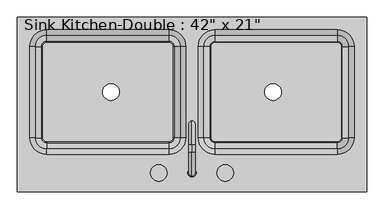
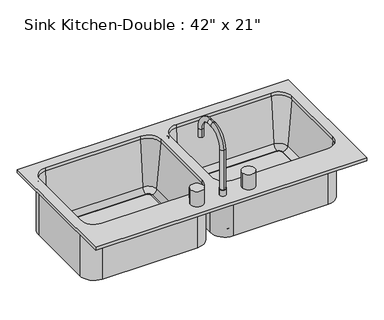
"""IFC4 building model written with IfcOpenShell, lengths in millimetres: flow terminal geometry."""

from ifc_helpers import new_model, si_unit, point, frame, frame_2d, origin, place, context, project, spatial, polyline, circle_curve, ellipse_curve, trimmed, segment, composite_curve, outline, extrude, source, transform, mapped, element, save
from ifc_brep_helpers import plane_surface, cylinder_surface, revolved_surface, advanced_brep


def flow_terminal_c7f2ea3e(model_context):
    return source(origin(), model_context, "Body", "SolidModel", [
        advanced_brep(
        [(2.9892406, -211.8954011, 927.1), (28.3892406, -211.8954011, 927.1), (15.6892406, -221.4204011, 1114.425), (15.6892406, -221.4204011, 952.5), (15.6892406, -202.3704011, 952.5), (15.6892406, -202.3704011, 1114.425), (15.6892406, -148.3954011, 1168.4), (15.6892406, -148.3954011, 1187.45), (15.6892406, -126.1704011, 1168.4), (15.6892406, -126.1704011, 1187.45), (15.6892406, -72.1954011, 1114.425), (15.6892406, -53.1454011, 1114.425), (15.6892406, -53.1454011, 1079.5), (15.6892406, -72.1954011, 1079.5), (2.9892406, -211.8954011, 952.5), (28.3892406, -211.8954011, 952.5)],
        [
            (0, 1, circle_curve(frame((15.6892406, -211.8954011, 927.1), z_axis=(0.0, 0.0, -1.0), x_axis=(1.0, 0.0, 0.0)), 12.7)),
            (1, 0, circle_curve(frame((15.6892406, -211.8954011, 927.1), z_axis=(0.0, 0.0, -1.0), x_axis=(1.0, 0.0, 0.0)), 12.7)),
            (2, 3),
            (3, 4, circle_curve(frame((15.6892406, -211.8954011, 952.5), z_axis=(0.0, 0.0, 1.0), x_axis=(0.0, 1.0, 0.0)), 9.525)),
            (4, 5),
            (5, 2, circle_curve(frame((15.6892406, -211.8954011, 1114.425), z_axis=(0.0, 0.0, -1.0), x_axis=(0.0, 1.0, 0.0)), 9.525)),
            (4, 3, circle_curve(frame((15.6892406, -211.8954011, 952.5), z_axis=(0.0, 0.0, 1.0), x_axis=(0.0, 1.0, 0.0)), 9.525)),
            (2, 5, circle_curve(frame((15.6892406, -211.8954011, 1114.425), z_axis=(0.0, 0.0, -1.0), x_axis=(0.0, 1.0, 0.0)), 9.525)),
            (5, 6, circle_curve(frame((15.6892406, -148.3954011, 1114.425), z_axis=(-1.0, 0.0, 0.0), x_axis=(0.0, -1.0, 0.0)), 53.975)),
            (6, 7, circle_curve(frame((15.6892406, -148.3954011, 1177.925), z_axis=(0.0, -1.0, 0.0), x_axis=(0.0, 0.0, -1.0)), 9.525)),
            (7, 2, circle_curve(frame((15.6892406, -148.3954011, 1114.425), z_axis=(1.0, 0.0, 0.0), x_axis=(0.0, -1.0, 0.0)), 73.025)),
            (7, 6, circle_curve(frame((15.6892406, -148.3954011, 1177.925), z_axis=(0.0, -1.0, 0.0), x_axis=(0.0, 0.0, -1.0)), 9.525)),
            (6, 8),
            (8, 9, circle_curve(frame((15.6892406, -126.1704011, 1177.925), z_axis=(0.0, -1.0, 0.0), x_axis=(0.0, 0.0, -1.0)), 9.525)),
            (9, 7),
            (9, 8, circle_curve(frame((15.6892406, -126.1704011, 1177.925), z_axis=(0.0, -1.0, 0.0), x_axis=(0.0, 0.0, -1.0)), 9.525)),
            (8, 10, circle_curve(frame((15.6892406, -126.1704011, 1114.425), z_axis=(-1.0, 0.0, 0.0), x_axis=(0.0, 0.0, 1.0)), 53.975)),
            (10, 11, circle_curve(frame((15.6892406, -62.6704011, 1114.425), z_axis=(0.0, 0.0, 1.0), x_axis=(0.0, -1.0, 0.0)), 9.525)),
            (11, 9, circle_curve(frame((15.6892406, -126.1704011, 1114.425), z_axis=(1.0, 0.0, 0.0), x_axis=(0.0, 0.0, 1.0)), 73.025)),
            (11, 10, circle_curve(frame((15.6892406, -62.6704011, 1114.425), z_axis=(0.0, 0.0, 1.0), x_axis=(0.0, -1.0, 0.0)), 9.525)),
            (12, 13, circle_curve(frame((15.6892406, -62.6704011, 1079.5), z_axis=(0.0, 0.0, -1.0), x_axis=(0.0, -1.0, 0.0)), 9.525)),
            (13, 12, circle_curve(frame((15.6892406, -62.6704011, 1079.5), z_axis=(0.0, 0.0, -1.0), x_axis=(0.0, -1.0, 0.0)), 9.525)),
            (10, 13),
            (12, 11),
            (14, 15, circle_curve(frame((15.6892406, -211.8954011, 952.5), z_axis=(0.0, 0.0, 1.0), x_axis=(1.0, 0.0, 0.0)), 12.7)),
            (15, 14, circle_curve(frame((15.6892406, -211.8954011, 952.5), z_axis=(0.0, 0.0, 1.0), x_axis=(1.0, 0.0, 0.0)), 12.7)),
            (15, 1),
            (0, 14),
        ],
        [
            plane_surface(frame((15.6892406, -202.3704011, 927.1), z_axis=(0.0, 0.0, -1.0), x_axis=(1.0, 0.0, 0.0))),
            cylinder_surface(frame((15.6892406, -211.8954011, 927.1), z_axis=(0.0, 0.0, -1.0), x_axis=(0.0, 1.0, 0.0)), 9.525),
            revolved_surface(trimmed(ellipse_curve(frame((15.6892406, -211.8954011, 1114.425), z_axis=(0.0, 0.0, 1.0), x_axis=(0.0, 1.0, 0.0)), 9.525, 9.525), [point((15.6892406, -221.4204011, 1114.425))], [point((15.6892406, -202.3704011, 1114.425))], True, "CARTESIAN"), (15.6892406, -148.3954011, 1114.425), (1.0, 0.0, 0.0)),
            revolved_surface(trimmed(ellipse_curve(frame((15.6892406, -211.8954011, 1114.425), z_axis=(0.0, 0.0, 1.0), x_axis=(0.0, 1.0, 0.0)), 9.525, 9.525), [point((15.6892406, -202.3704011, 1114.425))], [point((15.6892406, -221.4204011, 1114.425))], True, "CARTESIAN"), (15.6892406, -148.3954011, 1114.425), (1.0, 0.0, 0.0)),
            cylinder_surface(frame((15.6892406, -148.3954011, 1177.925), z_axis=(0.0, -1.0, 0.0), x_axis=(0.0, 0.0, -1.0)), 9.525),
            revolved_surface(trimmed(ellipse_curve(frame((15.6892406, -126.1704011, 1177.925), z_axis=(0.0, 1.0, 0.0), x_axis=(0.0, 0.0, -1.0)), 9.525, 9.525), [point((15.6892406, -126.1704011, 1187.45))], [point((15.6892406, -126.1704011, 1168.4))], True, "CARTESIAN"), (15.6892406, -126.1704011, 1114.425), (1.0, 0.0, 0.0)),
            revolved_surface(trimmed(ellipse_curve(frame((15.6892406, -126.1704011, 1177.925), z_axis=(0.0, 1.0, 0.0), x_axis=(0.0, 0.0, -1.0)), 9.525, 9.525), [point((15.6892406, -126.1704011, 1168.4))], [point((15.6892406, -126.1704011, 1187.45))], True, "CARTESIAN"), (15.6892406, -126.1704011, 1114.425), (1.0, 0.0, 0.0)),
            plane_surface(frame((15.6892406, -53.1454011, 1079.5), z_axis=(0.0, 0.0, -1.0), x_axis=(-1.0, 0.0, 0.0))),
            cylinder_surface(frame((15.6892406, -62.6704011, 1114.425), z_axis=(0.0, 0.0, 1.0), x_axis=(0.0, -1.0, 0.0)), 9.525),
            plane_surface(frame((28.3892406, -211.8954011, 952.5), z_axis=(0.0, 0.0, 1.0), x_axis=(0.0, -1.0, 0.0))),
            cylinder_surface(frame((15.6892406, -211.8954011, 927.1), z_axis=(0.0, 0.0, 1.0), x_axis=(1.0, 0.0, 0.0)), 12.7),
        ],
        [
            (0, [[1, 2]]),
            (1, [[3, 4, 5, 6]]),
            (1, [[-5, 7, -3, 8]]),
            (2, [[9, 10, 11, -6]]),
            (3, [[-11, 12, -9, -8]]),
            (4, [[13, 14, 15, -10]]),
            (4, [[-15, 16, -13, -12]]),
            (5, [[17, 18, 19, -14]]),
            (6, [[-19, 20, -17, -16]]),
            (7, [[21, 22]]),
            (8, [[23, -21, 24, -18]]),
            (8, [[-24, -22, -23, -20]]),
            (9, [[25, 26], [-7, -4]]),
            (10, [[27, -1, 28, -26]]),
            (10, [[-28, -2, -27, -25]]),
        ],
    ),
        advanced_brep(
        [(549.0892406, -269.0454011, 927.1), (549.0892406, 264.3545989, 927.1), (-517.7107594, 264.3545989, 927.1), (-517.7107594, -269.0454011, 927.1), (-54.1607594, -154.7454011, 927.1), (-428.8107594, -154.7454011, 927.1), (-479.6107594, -103.9454011, 927.1), (-479.6107594, 175.4545989, 927.1), (-428.8107594, 226.2545989, 927.1), (-54.1607594, 226.2545989, 927.1), (-3.3607594, 175.4545989, 927.1), (-3.3607594, -103.9454011, 927.1), (85.5392406, 226.2545989, 927.1), (460.1892406, 226.2545989, 927.1), (510.9892406, 175.4545989, 927.1), (510.9892406, -103.9454011, 927.1), (460.1892406, -154.7454011, 927.1), (85.5392406, -154.7454011, 927.1), (34.7392406, -103.9454011, 927.1), (34.7392406, 175.4545989, 927.1), (549.0892406, -269.0454011, 914.4), (-517.7107594, -269.0454011, 914.4), (-517.7107594, 264.3545989, 914.4), (549.0892406, 264.3545989, 914.4), (85.5392406, -161.0954011, 914.4), (460.1892406, -161.0954011, 914.4), (517.3392406, -103.9454011, 914.4), (517.3392406, 175.4545989, 914.4), (460.1892406, 232.6045989, 914.4), (85.5392406, 232.6045989, 914.4), (28.3892406, 175.4545989, 914.4), (28.3892406, -103.9454011, 914.4), (2.9892406, -103.9454011, 914.4), (2.9892406, 175.4545989, 914.4), (-54.1607594, 232.6045989, 914.4), (-428.8107594, 232.6045989, 914.4), (-485.9607594, 175.4545989, 914.4), (-485.9607594, -103.9454011, 914.4), (-428.8107594, -161.0954011, 914.4), (-54.1607594, -161.0954011, 914.4), (-3.3607594, -103.9454011, 914.4), (-54.1607594, -154.7454011, 914.4), (-3.3607594, 175.4545989, 914.4), (-54.1607594, 226.2545989, 914.4), (-428.8107594, 226.2545989, 914.4), (-479.6107594, 175.4545989, 914.4), (-479.6107594, -103.9454011, 914.4), (-428.8107594, -154.7454011, 914.4), (34.7392406, 175.4545989, 914.4), (85.5392406, 226.2545989, 914.4), (34.7392406, -103.9454011, 914.4), (85.5392406, -154.7454011, 914.4), (460.1892406, -154.7454011, 914.4), (510.9892406, -103.9454011, 914.4), (510.9892406, 175.4545989, 914.4), (460.1892406, 226.2545989, 914.4), (51.2733134, -103.9454011, 725.4146831), (85.5392406, -138.2113283, 725.4146831), (85.5392406, -119.2338193, 708.025), (70.2508224, -103.9454011, 708.025), (85.5392406, -116.6454011, 708.025), (72.8392406, -103.9454011, 708.025), (85.5392406, -116.6454011, 698.5), (72.8392406, -103.9454011, 698.5), (85.5392406, -161.0954011, 698.5), (28.3892406, -103.9454011, 698.5), (51.2733134, 175.4545989, 725.4146831), (70.2508224, 175.4545989, 708.025), (72.8392406, 175.4545989, 708.025), (72.8392406, 175.4545989, 698.5), (28.3892406, 175.4545989, 698.5), (85.5392406, 209.7205261, 725.4146831), (85.5392406, 190.7430171, 708.025), (85.5392406, 188.1545989, 708.025), (85.5392406, 188.1545989, 698.5), (85.5392406, 232.6045989, 698.5), (460.1892406, 209.7205261, 725.4146831), (460.1892406, 190.7430171, 708.025), (460.1892406, 188.1545989, 708.025), (460.1892406, 188.1545989, 698.5), (460.1892406, 232.6045989, 698.5), (494.4551678, 175.4545989, 725.4146831), (475.4776588, 175.4545989, 708.025), (472.8892406, 175.4545989, 708.025), (472.8892406, 175.4545989, 698.5), (517.3392406, 175.4545989, 698.5), (494.4551678, -103.9454011, 725.4146831), (475.4776588, -103.9454011, 708.025), (472.8892406, -103.9454011, 708.025), (472.8892406, -103.9454011, 698.5), (517.3392406, -103.9454011, 698.5), (460.1892406, -138.2113283, 725.4146831), (460.1892406, -119.2338193, 708.025), (460.1892406, -116.6454011, 708.025), (460.1892406, -116.6454011, 698.5), (460.1892406, -161.0954011, 698.5), (2.9892406, -103.9454011, 698.5), (-54.1607594, -161.0954011, 698.5), (-54.1607594, -116.6454011, 698.5), (-41.4607594, -103.9454011, 698.5), (-54.1607594, -116.6454011, 708.025), (-41.4607594, -103.9454011, 708.025), (-54.1607594, -119.2338193, 708.025), (-38.8723412, -103.9454011, 708.025), (-54.1607594, -138.2113283, 725.4146831), (-19.8948322, -103.9454011, 725.4146831), (2.9892406, 175.4545989, 698.5), (-41.4607594, 175.4545989, 698.5), (-41.4607594, 175.4545989, 708.025), (-38.8723412, 175.4545989, 708.025), (-19.8948322, 175.4545989, 725.4146831), (-54.1607594, 232.6045989, 698.5), (-54.1607594, 188.1545989, 698.5), (-54.1607594, 188.1545989, 708.025), (-54.1607594, 190.7430171, 708.025), (-54.1607594, 209.7205261, 725.4146831), (-428.8107594, 232.6045989, 698.5), (-428.8107594, 188.1545989, 698.5), (-428.8107594, 188.1545989, 708.025), (-428.8107594, 190.7430171, 708.025), (-428.8107594, 209.7205261, 725.4146831), (-485.9607594, 175.4545989, 698.5), (-441.5107594, 175.4545989, 698.5), (-441.5107594, 175.4545989, 708.025), (-444.0991776, 175.4545989, 708.025), (-463.0766866, 175.4545989, 725.4146831), (-485.9607594, -103.9454011, 698.5), (-441.5107594, -103.9454011, 698.5), (-441.5107594, -103.9454011, 708.025), (-444.0991776, -103.9454011, 708.025), (-463.0766866, -103.9454011, 725.4146831), (-428.8107594, -161.0954011, 698.5), (-428.8107594, -116.6454011, 698.5), (-428.8107594, -116.6454011, 708.025), (-428.8107594, -119.2338193, 708.025), (-428.8107594, -138.2113283, 725.4146831)],
        [
            (0, 1),
            (1, 2),
            (2, 3),
            (3, 0),
            (4, 5),
            (5, 6, circle_curve(frame((-428.8107594, -103.9454011, 927.1), z_axis=(0.0, 0.0, -1.0), x_axis=(1.0, 0.0, 0.0)), 50.8)),
            (6, 7),
            (7, 8, circle_curve(frame((-428.8107594, 175.4545989, 927.1), z_axis=(0.0, 0.0, -1.0), x_axis=(1.0, 0.0, 0.0)), 50.8)),
            (8, 9),
            (9, 10, circle_curve(frame((-54.1607594, 175.4545989, 927.1), z_axis=(0.0, 0.0, -1.0), x_axis=(1.0, 0.0, 0.0)), 50.8)),
            (10, 11),
            (11, 4, circle_curve(frame((-54.1607594, -103.9454011, 927.1), z_axis=(0.0, 0.0, -1.0), x_axis=(1.0, 0.0, 0.0)), 50.8)),
            (12, 13),
            (13, 14, circle_curve(frame((460.1892406, 175.4545989, 927.1), z_axis=(0.0, 0.0, -1.0), x_axis=(1.0, 0.0, 0.0)), 50.8)),
            (14, 15),
            (15, 16, circle_curve(frame((460.1892406, -103.9454011, 927.1), z_axis=(0.0, 0.0, -1.0), x_axis=(1.0, 0.0, 0.0)), 50.8)),
            (16, 17),
            (17, 18, circle_curve(frame((85.5392406, -103.9454011, 927.1), z_axis=(0.0, 0.0, -1.0), x_axis=(1.0, 0.0, 0.0)), 50.8)),
            (18, 19),
            (19, 12, circle_curve(frame((85.5392406, 175.4545989, 927.1), z_axis=(0.0, 0.0, -1.0), x_axis=(1.0, 0.0, 0.0)), 50.8)),
            (20, 21),
            (21, 22),
            (22, 23),
            (23, 20),
            (24, 25),
            (25, 26, circle_curve(frame((460.1892406, -103.9454011, 914.4), z_axis=(0.0, 0.0, 1.0), x_axis=(1.0, 0.0, 0.0)), 57.15)),
            (26, 27),
            (27, 28, circle_curve(frame((460.1892406, 175.4545989, 914.4), z_axis=(0.0, 0.0, 1.0), x_axis=(0.0, 1.0, 0.0)), 57.15)),
            (28, 29),
            (29, 30, circle_curve(frame((85.5392406, 175.4545989, 914.4), z_axis=(0.0, 0.0, 1.0), x_axis=(-1.0, 0.0, 0.0)), 57.15)),
            (30, 31),
            (31, 24, circle_curve(frame((85.5392406, -103.9454011, 914.4), z_axis=(0.0, 0.0, 1.0), x_axis=(0.0, -1.0, 0.0)), 57.15)),
            (32, 33),
            (33, 34, circle_curve(frame((-54.1607594, 175.4545989, 914.4), z_axis=(0.0, 0.0, 1.0), x_axis=(1.0, 0.0, 0.0)), 57.15)),
            (34, 35),
            (35, 36, circle_curve(frame((-428.8107594, 175.4545989, 914.4), z_axis=(0.0, 0.0, 1.0), x_axis=(0.0, 1.0, 0.0)), 57.15)),
            (36, 37),
            (37, 38, circle_curve(frame((-428.8107594, -103.9454011, 914.4), z_axis=(0.0, 0.0, 1.0), x_axis=(-1.0, 0.0, 0.0)), 57.15)),
            (38, 39),
            (39, 32, circle_curve(frame((-54.1607594, -103.9454011, 914.4), z_axis=(0.0, 0.0, 1.0), x_axis=(0.0, -1.0, 0.0)), 57.15)),
            (3, 21),
            (20, 0),
            (2, 22),
            (1, 23),
            (11, 40),
            (40, 41, circle_curve(frame((-54.1607594, -103.9454011, 914.4), z_axis=(0.0, 0.0, -1.0), x_axis=(1.0, 0.0, 0.0)), 50.8)),
            (41, 4),
            (10, 42),
            (42, 40),
            (9, 43),
            (43, 42, circle_curve(frame((-54.1607594, 175.4545989, 914.4), z_axis=(0.0, 0.0, -1.0), x_axis=(1.0, 0.0, 0.0)), 50.8)),
            (8, 44),
            (44, 43),
            (7, 45),
            (45, 44, circle_curve(frame((-428.8107594, 175.4545989, 914.4), z_axis=(0.0, 0.0, -1.0), x_axis=(1.0, 0.0, 0.0)), 50.8)),
            (6, 46),
            (46, 45),
            (5, 47),
            (47, 46, circle_curve(frame((-428.8107594, -103.9454011, 914.4), z_axis=(0.0, 0.0, -1.0), x_axis=(1.0, 0.0, 0.0)), 50.8)),
            (41, 47),
            (19, 48),
            (48, 49, circle_curve(frame((85.5392406, 175.4545989, 914.4), z_axis=(0.0, 0.0, -1.0), x_axis=(1.0, 0.0, 0.0)), 50.8)),
            (49, 12),
            (18, 50),
            (50, 48),
            (17, 51),
            (51, 50, circle_curve(frame((85.5392406, -103.9454011, 914.4), z_axis=(0.0, 0.0, -1.0), x_axis=(1.0, 0.0, 0.0)), 50.8)),
            (16, 52),
            (52, 51),
            (15, 53),
            (53, 52, circle_curve(frame((460.1892406, -103.9454011, 914.4), z_axis=(0.0, 0.0, -1.0), x_axis=(1.0, 0.0, 0.0)), 50.8)),
            (14, 54),
            (54, 53),
            (13, 55),
            (55, 54, circle_curve(frame((460.1892406, 175.4545989, 914.4), z_axis=(0.0, 0.0, -1.0), x_axis=(1.0, 0.0, 0.0)), 50.8)),
            (49, 55),
            (56, 50),
            (51, 57),
            (57, 56, circle_curve(frame((85.5392406, -103.9454011, 725.4146831), z_axis=(0.0, 0.0, -1.0), x_axis=(0.0, -1.0, 0.0)), 34.2659272)),
            (57, 58, circle_curve(frame((85.5392406, -119.2338193, 727.075), z_axis=(1.0, 0.0, 0.0), x_axis=(0.0, 1.0, 0.0)), 19.05)),
            (58, 59, circle_curve(frame((85.5392406, -103.9454011, 708.025), z_axis=(0.0, 0.0, -1.0), x_axis=(0.0, -1.0, 0.0)), 15.2884182)),
            (59, 56, circle_curve(frame((70.2508224, -103.9454011, 727.075), z_axis=(0.0, 1.0, 0.0), x_axis=(1.0, 0.0, 0.0)), 19.05)),
            (58, 60),
            (60, 61, circle_curve(frame((85.5392406, -103.9454011, 708.025), z_axis=(0.0, 0.0, -1.0), x_axis=(0.0, -1.0, 0.0)), 12.7)),
            (61, 59),
            (60, 62),
            (62, 63, circle_curve(frame((85.5392406, -103.9454011, 698.5), z_axis=(0.0, 0.0, -1.0), x_axis=(0.0, -1.0, 0.0)), 12.7)),
            (63, 61),
            (62, 64),
            (64, 65, circle_curve(frame((85.5392406, -103.9454011, 698.5), z_axis=(0.0, 0.0, -1.0), x_axis=(0.0, -1.0, 0.0)), 57.15)),
            (65, 63),
            (64, 24),
            (31, 65),
            (56, 66),
            (66, 48),
            (59, 67),
            (67, 66, circle_curve(frame((70.2508224, 175.4545989, 727.075), z_axis=(0.0, 1.0, 0.0), x_axis=(1.0, 0.0, 0.0)), 19.05)),
            (61, 68),
            (68, 67),
            (63, 69),
            (69, 68),
            (65, 70),
            (70, 69),
            (30, 70),
            (66, 71, circle_curve(frame((85.5392406, 175.4545989, 725.4146831), z_axis=(0.0, 0.0, -1.0), x_axis=(-1.0, 0.0, 0.0)), 34.2659272)),
            (71, 49),
            (67, 72, circle_curve(frame((85.5392406, 175.4545989, 708.025), z_axis=(0.0, 0.0, -1.0), x_axis=(-1.0, 0.0, 0.0)), 15.2884182)),
            (72, 71, circle_curve(frame((85.5392406, 190.7430171, 727.075), z_axis=(1.0, 0.0, 0.0), x_axis=(0.0, -1.0, 0.0)), 19.05)),
            (68, 73, circle_curve(frame((85.5392406, 175.4545989, 708.025), z_axis=(0.0, 0.0, -1.0), x_axis=(-1.0, 0.0, 0.0)), 12.7)),
            (73, 72),
            (69, 74, circle_curve(frame((85.5392406, 175.4545989, 698.5), z_axis=(0.0, 0.0, -1.0), x_axis=(-1.0, 0.0, 0.0)), 12.7)),
            (74, 73),
            (70, 75, circle_curve(frame((85.5392406, 175.4545989, 698.5), z_axis=(0.0, 0.0, -1.0), x_axis=(-1.0, 0.0, 0.0)), 57.15)),
            (75, 74),
            (29, 75),
            (71, 76),
            (76, 55),
            (72, 77),
            (77, 76, circle_curve(frame((460.1892406, 190.7430171, 727.075), z_axis=(1.0, 0.0, 0.0), x_axis=(0.0, -1.0, 0.0)), 19.05)),
            (73, 78),
            (78, 77),
            (74, 79),
            (79, 78),
            (75, 80),
            (80, 79),
            (28, 80),
            (76, 81, circle_curve(frame((460.1892406, 175.4545989, 725.4146831), z_axis=(0.0, 0.0, -1.0), x_axis=(0.0, 1.0, 0.0)), 34.2659272)),
            (81, 54),
            (77, 82, circle_curve(frame((460.1892406, 175.4545989, 708.025), z_axis=(0.0, 0.0, -1.0), x_axis=(0.0, 1.0, 0.0)), 15.2884182)),
            (82, 81, circle_curve(frame((475.4776588, 175.4545989, 727.075), z_axis=(0.0, -1.0, 0.0), x_axis=(-1.0, 0.0, 0.0)), 19.05)),
            (78, 83, circle_curve(frame((460.1892406, 175.4545989, 708.025), z_axis=(0.0, 0.0, -1.0), x_axis=(0.0, 1.0, 0.0)), 12.7)),
            (83, 82),
            (79, 84, circle_curve(frame((460.1892406, 175.4545989, 698.5), z_axis=(0.0, 0.0, -1.0), x_axis=(0.0, 1.0, 0.0)), 12.7)),
            (84, 83),
            (80, 85, circle_curve(frame((460.1892406, 175.4545989, 698.5), z_axis=(0.0, 0.0, -1.0), x_axis=(0.0, 1.0, 0.0)), 57.15)),
            (85, 84),
            (27, 85),
            (81, 86),
            (86, 53),
            (82, 87),
            (87, 86, circle_curve(frame((475.4776588, -103.9454011, 727.075), z_axis=(0.0, -1.0, 0.0), x_axis=(-1.0, 0.0, 0.0)), 19.05)),
            (83, 88),
            (88, 87),
            (84, 89),
            (89, 88),
            (85, 90),
            (90, 89),
            (26, 90),
            (86, 91, circle_curve(frame((460.1892406, -103.9454011, 725.4146831), z_axis=(0.0, 0.0, -1.0), x_axis=(1.0, 0.0, 0.0)), 34.2659272)),
            (91, 52),
            (87, 92, circle_curve(frame((460.1892406, -103.9454011, 708.025), z_axis=(0.0, 0.0, -1.0), x_axis=(1.0, 0.0, 0.0)), 15.2884182)),
            (92, 91, circle_curve(frame((460.1892406, -119.2338193, 727.075), z_axis=(-1.0, 0.0, 0.0), x_axis=(0.0, 1.0, 0.0)), 19.05)),
            (88, 93, circle_curve(frame((460.1892406, -103.9454011, 708.025), z_axis=(0.0, 0.0, -1.0), x_axis=(1.0, 0.0, 0.0)), 12.7)),
            (93, 92),
            (89, 94, circle_curve(frame((460.1892406, -103.9454011, 698.5), z_axis=(0.0, 0.0, -1.0), x_axis=(1.0, 0.0, 0.0)), 12.7)),
            (94, 93),
            (90, 95, circle_curve(frame((460.1892406, -103.9454011, 698.5), z_axis=(0.0, 0.0, -1.0), x_axis=(1.0, 0.0, 0.0)), 57.15)),
            (95, 94),
            (25, 95),
            (91, 57),
            (92, 58),
            (93, 60),
            (94, 62),
            (95, 64),
            (96, 32),
            (39, 97),
            (97, 96, circle_curve(frame((-54.1607594, -103.9454011, 698.5), z_axis=(0.0, 0.0, 1.0), x_axis=(0.0, -1.0, 0.0)), 57.15)),
            (97, 98),
            (98, 99, circle_curve(frame((-54.1607594, -103.9454011, 698.5), z_axis=(0.0, 0.0, 1.0), x_axis=(0.0, -1.0, 0.0)), 12.7)),
            (99, 96),
            (98, 100),
            (100, 101, circle_curve(frame((-54.1607594, -103.9454011, 708.025), z_axis=(0.0, 0.0, 1.0), x_axis=(0.0, -1.0, 0.0)), 12.7)),
            (101, 99),
            (100, 102),
            (102, 103, circle_curve(frame((-54.1607594, -103.9454011, 708.025), z_axis=(0.0, 0.0, 1.0), x_axis=(0.0, -1.0, 0.0)), 15.2884182)),
            (103, 101),
            (102, 104, circle_curve(frame((-54.1607594, -119.2338193, 727.075), z_axis=(-1.0, 0.0, 0.0), x_axis=(0.0, -1.0, 0.0)), 19.05)),
            (104, 105, circle_curve(frame((-54.1607594, -103.9454011, 725.4146831), z_axis=(0.0, 0.0, 1.0), x_axis=(0.0, -1.0, 0.0)), 34.2659272)),
            (105, 103, circle_curve(frame((-38.8723412, -103.9454011, 727.075), z_axis=(0.0, 1.0, 0.0), x_axis=(1.0, 0.0, 0.0)), 19.05)),
            (104, 41),
            (40, 105),
            (96, 106),
            (106, 33),
            (99, 107),
            (107, 106),
            (101, 108),
            (108, 107),
            (103, 109),
            (109, 108),
            (105, 110),
            (110, 109, circle_curve(frame((-38.8723412, 175.4545989, 727.075), z_axis=(0.0, 1.0, 0.0), x_axis=(1.0, 0.0, 0.0)), 19.05)),
            (42, 110),
            (106, 111, circle_curve(frame((-54.1607594, 175.4545989, 698.5), z_axis=(0.0, 0.0, 1.0), x_axis=(1.0, 0.0, 0.0)), 57.15)),
            (111, 34),
            (107, 112, circle_curve(frame((-54.1607594, 175.4545989, 698.5), z_axis=(0.0, 0.0, 1.0), x_axis=(1.0, 0.0, 0.0)), 12.7)),
            (112, 111),
            (108, 113, circle_curve(frame((-54.1607594, 175.4545989, 708.025), z_axis=(0.0, 0.0, 1.0), x_axis=(1.0, 0.0, 0.0)), 12.7)),
            (113, 112),
            (109, 114, circle_curve(frame((-54.1607594, 175.4545989, 708.025), z_axis=(0.0, 0.0, 1.0), x_axis=(1.0, 0.0, 0.0)), 15.2884182)),
            (114, 113),
            (110, 115, circle_curve(frame((-54.1607594, 175.4545989, 725.4146831), z_axis=(0.0, 0.0, 1.0), x_axis=(1.0, 0.0, 0.0)), 34.2659272)),
            (115, 114, circle_curve(frame((-54.1607594, 190.7430171, 727.075), z_axis=(-1.0, 0.0, 0.0), x_axis=(0.0, 1.0, 0.0)), 19.05)),
            (43, 115),
            (111, 116),
            (116, 35),
            (112, 117),
            (117, 116),
            (113, 118),
            (118, 117),
            (114, 119),
            (119, 118),
            (115, 120),
            (120, 119, circle_curve(frame((-428.8107594, 190.7430171, 727.075), z_axis=(-1.0, 0.0, 0.0), x_axis=(0.0, 1.0, 0.0)), 19.05)),
            (44, 120),
            (116, 121, circle_curve(frame((-428.8107594, 175.4545989, 698.5), z_axis=(0.0, 0.0, 1.0), x_axis=(0.0, 1.0, 0.0)), 57.15)),
            (121, 36),
            (117, 122, circle_curve(frame((-428.8107594, 175.4545989, 698.5), z_axis=(0.0, 0.0, 1.0), x_axis=(0.0, 1.0, 0.0)), 12.7)),
            (122, 121),
            (118, 123, circle_curve(frame((-428.8107594, 175.4545989, 708.025), z_axis=(0.0, 0.0, 1.0), x_axis=(0.0, 1.0, 0.0)), 12.7)),
            (123, 122),
            (119, 124, circle_curve(frame((-428.8107594, 175.4545989, 708.025), z_axis=(0.0, 0.0, 1.0), x_axis=(0.0, 1.0, 0.0)), 15.2884182)),
            (124, 123),
            (120, 125, circle_curve(frame((-428.8107594, 175.4545989, 725.4146831), z_axis=(0.0, 0.0, 1.0), x_axis=(0.0, 1.0, 0.0)), 34.2659272)),
            (125, 124, circle_curve(frame((-444.0991776, 175.4545989, 727.075), z_axis=(0.0, -1.0, 0.0), x_axis=(-1.0, 0.0, 0.0)), 19.05)),
            (45, 125),
            (121, 126),
            (126, 37),
            (122, 127),
            (127, 126),
            (123, 128),
            (128, 127),
            (124, 129),
            (129, 128),
            (125, 130),
            (130, 129, circle_curve(frame((-444.0991776, -103.9454011, 727.075), z_axis=(0.0, -1.0, 0.0), x_axis=(-1.0, 0.0, 0.0)), 19.05)),
            (46, 130),
            (126, 131, circle_curve(frame((-428.8107594, -103.9454011, 698.5), z_axis=(0.0, 0.0, 1.0), x_axis=(-1.0, 0.0, 0.0)), 57.15)),
            (131, 38),
            (127, 132, circle_curve(frame((-428.8107594, -103.9454011, 698.5), z_axis=(0.0, 0.0, 1.0), x_axis=(-1.0, 0.0, 0.0)), 12.7)),
            (132, 131),
            (128, 133, circle_curve(frame((-428.8107594, -103.9454011, 708.025), z_axis=(0.0, 0.0, 1.0), x_axis=(-1.0, 0.0, 0.0)), 12.7)),
            (133, 132),
            (129, 134, circle_curve(frame((-428.8107594, -103.9454011, 708.025), z_axis=(0.0, 0.0, 1.0), x_axis=(-1.0, 0.0, 0.0)), 15.2884182)),
            (134, 133),
            (130, 135, circle_curve(frame((-428.8107594, -103.9454011, 725.4146831), z_axis=(0.0, 0.0, 1.0), x_axis=(-1.0, 0.0, 0.0)), 34.2659272)),
            (135, 134, circle_curve(frame((-428.8107594, -119.2338193, 727.075), z_axis=(1.0, 0.0, 0.0), x_axis=(0.0, -1.0, 0.0)), 19.05)),
            (47, 135),
            (131, 97),
            (132, 98),
            (133, 100),
            (134, 102),
            (135, 104),
        ],
        [
            plane_surface(frame((-517.7107594, -269.0454011, 927.1), z_axis=(0.0, 0.0, 1.0), x_axis=(-1.0, 0.0, 0.0))),
            plane_surface(frame((-517.7107594, -269.0454011, 914.4), z_axis=(0.0, 0.0, -1.0), x_axis=(1.0, 0.0, 0.0))),
            plane_surface(frame((549.0892406, -269.0454011, 927.1), z_axis=(0.0, -1.0, 0.0), x_axis=(0.0, 0.0, -1.0))),
            plane_surface(frame((-517.7107594, -269.0454011, 927.1), z_axis=(-1.0, 0.0, 0.0), x_axis=(0.0, 0.0, -1.0))),
            plane_surface(frame((-517.7107594, 264.3545989, 927.1), z_axis=(0.0, 1.0, 0.0), x_axis=(0.0, 0.0, -1.0))),
            plane_surface(frame((549.0892406, 264.3545989, 927.1), z_axis=(1.0, 0.0, 0.0), x_axis=(0.0, 0.0, -1.0))),
            revolved_surface(polyline([(-3.3607594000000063, -103.9454011, 914.4), (-3.3607594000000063, -103.9454011, 927.1)]), (-54.1607594, -103.9454011, 0.0), (0.0, 0.0, -1.0)),
            plane_surface(frame((-3.3607594, -103.9454011, 927.1), z_axis=(-1.0, 0.0, 0.0), x_axis=(0.0, 0.0, -1.0))),
            revolved_surface(polyline([(-3.3607594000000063, 175.4545989, 914.4), (-3.3607594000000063, 175.4545989, 927.1)]), (-54.1607594, 175.4545989, 0.0), (0.0, 0.0, -1.0)),
            plane_surface(frame((-54.1607594, 226.2545989, 927.1), z_axis=(0.0, -1.0, 0.0), x_axis=(0.0, 0.0, -1.0))),
            revolved_surface(polyline([(-378.0107594, 175.4545989, 914.4), (-378.0107594, 175.4545989, 927.1)]), (-428.8107594, 175.4545989, 0.0), (0.0, 0.0, -1.0)),
            plane_surface(frame((-479.6107594, 175.4545989, 927.1), z_axis=(1.0, 0.0, 0.0), x_axis=(0.0, 0.0, -1.0))),
            revolved_surface(polyline([(-378.0107594, -103.9454011, 914.4), (-378.0107594, -103.9454011, 927.1)]), (-428.8107594, -103.9454011, 0.0), (0.0, 0.0, -1.0)),
            plane_surface(frame((-428.8107594, -154.7454011, 927.1), z_axis=(0.0, 1.0, 0.0), x_axis=(0.0, 0.0, -1.0))),
            revolved_surface(polyline([(136.33924059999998, 175.4545989, 914.4), (136.33924059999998, 175.4545989, 927.1)]), (85.5392406, 175.4545989, 0.0), (0.0, 0.0, -1.0)),
            plane_surface(frame((34.7392406, 175.4545989, 927.1), z_axis=(1.0, 0.0, 0.0), x_axis=(0.0, 0.0, -1.0))),
            revolved_surface(polyline([(136.33924059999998, -103.9454011, 914.4), (136.33924059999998, -103.9454011, 927.1)]), (85.5392406, -103.9454011, 0.0), (0.0, 0.0, -1.0)),
            plane_surface(frame((85.5392406, -154.7454011, 927.1), z_axis=(0.0, 1.0, 0.0), x_axis=(0.0, 0.0, -1.0))),
            revolved_surface(polyline([(510.9892406, -103.9454011, 914.4), (510.9892406, -103.9454011, 927.1)]), (460.1892406, -103.9454011, 0.0), (0.0, 0.0, -1.0)),
            plane_surface(frame((510.9892406, -103.9454011, 927.1), z_axis=(-1.0, 0.0, 0.0), x_axis=(0.0, 0.0, -1.0))),
            revolved_surface(polyline([(510.9892406, 175.4545989, 914.4), (510.9892406, 175.4545989, 927.1)]), (460.1892406, 175.4545989, 0.0), (0.0, 0.0, -1.0)),
            plane_surface(frame((460.1892406, 226.2545989, 927.1), z_axis=(0.0, -1.0, 0.0), x_axis=(0.0, 0.0, -1.0))),
            revolved_surface(polyline([(85.5392406, -154.7454011, 914.4), (85.5392406, -138.2113283, 725.4146831)]), (85.5392406, -103.9454011, 0.0), (0.0, 0.0, 1.0)),
            revolved_surface(trimmed(ellipse_curve(frame((85.5392406, -119.2338193, 727.075), z_axis=(1.0, 0.0, 0.0), x_axis=(0.0, 1.0, 0.0)), 19.05, 19.05), [point((85.5392406, -138.2113283, 725.4146831))], [point((85.5392406, -119.2338193, 708.025))], True, "CARTESIAN"), (85.5392406, -103.9454011, 0.0), (0.0, 0.0, 1.0)),
            plane_surface(frame((85.5392406, -103.9454011, 708.025), z_axis=(0.0, 0.0, 1.0), x_axis=(0.0, -1.0, 0.0))),
            revolved_surface(polyline([(85.5392406, -116.6454011, 708.025), (85.5392406, -116.6454011, 698.5)]), (85.5392406, -103.9454011, 0.0), (0.0, 0.0, 1.0)),
            plane_surface(frame((85.5392406, -103.9454011, 698.5), z_axis=(0.0, 0.0, -1.0), x_axis=(0.0, -1.0, 0.0))),
            cylinder_surface(frame((85.5392406, -103.9454011, 0.0), z_axis=(0.0, 0.0, 1.0), x_axis=(0.0, -1.0, 0.0)), 57.15),
            plane_surface(frame((34.7392406, -103.9454011, 914.4), z_axis=(0.996194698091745, 0.0, 0.08715574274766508), x_axis=(0.0, 1.0, 0.0))),
            revolved_surface(polyline([(89.3008224, 175.45459889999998, 727.075), (89.3008224, -103.9454011, 727.075)]), (70.2508224, -103.9454011, 727.075), (0.0, 1.0, 0.0)),
            plane_surface(frame((70.2508224, -103.9454011, 708.025), z_axis=(0.0, 0.0, 1.0), x_axis=(0.0, 1.0, 0.0))),
            plane_surface(frame((72.8392406, -103.9454011, 708.025), z_axis=(1.0, 0.0, 0.0), x_axis=(0.0, 1.0, 0.0))),
            plane_surface(frame((72.8392406, -103.9454011, 698.5), z_axis=(0.0, 0.0, -1.0), x_axis=(0.0, 1.0, 0.0))),
            plane_surface(frame((28.3892406, -103.9454011, 698.5), z_axis=(-1.0, 0.0, 0.0), x_axis=(0.0, 1.0, 0.0))),
            revolved_surface(polyline([(34.7392406, 175.4545989, 914.4), (51.2733134, 175.4545989, 725.4146831)]), (85.5392406, 175.4545989, 0.0), (0.0, 0.0, 1.0)),
            revolved_surface(trimmed(ellipse_curve(frame((70.2508224, 175.4545989, 727.075), z_axis=(0.0, -1.0, 0.0), x_axis=(1.0, 0.0, 0.0)), 19.05, 19.05), [point((51.2733134, 175.4545989, 725.4146831))], [point((70.2508224, 175.4545989, 708.025))], True, "CARTESIAN"), (85.5392406, 175.4545989, 0.0), (0.0, 0.0, 1.0)),
            plane_surface(frame((85.5392406, 175.4545989, 708.025), z_axis=(0.0, 0.0, 1.0), x_axis=(-1.0, 0.0, 0.0))),
            revolved_surface(polyline([(72.8392406, 175.4545989, 708.025), (72.8392406, 175.4545989, 698.5)]), (85.5392406, 175.4545989, 0.0), (0.0, 0.0, 1.0)),
            plane_surface(frame((85.5392406, 175.4545989, 698.5), z_axis=(0.0, 0.0, -1.0), x_axis=(-1.0, 0.0, 0.0))),
            cylinder_surface(frame((85.5392406, 175.4545989, 0.0), z_axis=(0.0, 0.0, 1.0), x_axis=(-1.0, 0.0, 0.0)), 57.15),
            plane_surface(frame((85.5392406, 226.2545989, 914.4), z_axis=(0.0, -0.996194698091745, 0.08715574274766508), x_axis=(1.0, 0.0, 0.0))),
            revolved_surface(polyline([(460.18924059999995, 171.6930171, 727.075), (85.5392406, 171.6930171, 727.075)]), (85.5392406, 190.7430171, 727.075), (1.0, 0.0, 0.0)),
            plane_surface(frame((85.5392406, 190.7430171, 708.025), z_axis=(0.0, 0.0, 1.0), x_axis=(1.0, 0.0, 0.0))),
            plane_surface(frame((85.5392406, 188.1545989, 708.025), z_axis=(0.0, -1.0, 0.0), x_axis=(1.0, 0.0, 0.0))),
            plane_surface(frame((85.5392406, 188.1545989, 698.5), z_axis=(0.0, 0.0, -1.0), x_axis=(1.0, 0.0, 0.0))),
            plane_surface(frame((85.5392406, 232.6045989, 698.5), z_axis=(0.0, 1.0, 0.0), x_axis=(1.0, 0.0, 0.0))),
            revolved_surface(polyline([(460.1892406, 226.2545989, 914.4), (460.1892406, 209.7205261, 725.4146831)]), (460.1892406, 175.4545989, 0.0), (0.0, 0.0, 1.0)),
            revolved_surface(trimmed(ellipse_curve(frame((460.1892406, 190.7430171, 727.075), z_axis=(-1.0, 0.0, 0.0), x_axis=(0.0, -1.0, 0.0)), 19.05, 19.05), [point((460.1892406, 209.7205261, 725.4146831))], [point((460.1892406, 190.7430171, 708.025))], True, "CARTESIAN"), (460.1892406, 175.4545989, 0.0), (0.0, 0.0, 1.0)),
            plane_surface(frame((460.1892406, 175.4545989, 708.025), z_axis=(0.0, 0.0, 1.0), x_axis=(0.0, 1.0, 0.0))),
            revolved_surface(polyline([(460.1892406, 188.1545989, 708.025), (460.1892406, 188.1545989, 698.5)]), (460.1892406, 175.4545989, 0.0), (0.0, 0.0, 1.0)),
            plane_surface(frame((460.1892406, 175.4545989, 698.5), z_axis=(0.0, 0.0, -1.0), x_axis=(0.0, 1.0, 0.0))),
            cylinder_surface(frame((460.1892406, 175.4545989, 0.0), z_axis=(0.0, 0.0, 1.0), x_axis=(0.0, 1.0, 0.0)), 57.15),
            plane_surface(frame((510.9892406, 175.4545989, 914.4), z_axis=(-0.996194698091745, 0.0, 0.08715574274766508), x_axis=(0.0, -1.0, 0.0))),
            revolved_surface(polyline([(456.42765879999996, -103.94540109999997, 727.075), (456.42765879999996, 175.4545989, 727.075)]), (475.4776588, 175.4545989, 727.075), (0.0, -1.0, 0.0)),
            plane_surface(frame((475.4776588, 175.4545989, 708.025), z_axis=(0.0, 0.0, 1.0), x_axis=(0.0, -1.0, 0.0))),
            plane_surface(frame((472.8892406, 175.4545989, 708.025), z_axis=(-1.0, 0.0, 0.0), x_axis=(0.0, -1.0, 0.0))),
            plane_surface(frame((472.8892406, 175.4545989, 698.5), z_axis=(0.0, 0.0, -1.0), x_axis=(0.0, -1.0, 0.0))),
            plane_surface(frame((517.3392406, 175.4545989, 698.5), z_axis=(1.0, 0.0, 0.0), x_axis=(0.0, -1.0, 0.0))),
            revolved_surface(polyline([(510.9892406, -103.9454011, 914.4), (494.4551678, -103.9454011, 725.4146831)]), (460.1892406, -103.9454011, 0.0), (0.0, 0.0, 1.0)),
            revolved_surface(trimmed(ellipse_curve(frame((475.4776588, -103.9454011, 727.075), z_axis=(0.0, 1.0, 0.0), x_axis=(-1.0, 0.0, 0.0)), 19.05, 19.05), [point((494.4551678, -103.9454011, 725.4146831))], [point((475.4776588, -103.9454011, 708.025))], True, "CARTESIAN"), (460.1892406, -103.9454011, 0.0), (0.0, 0.0, 1.0)),
            plane_surface(frame((460.1892406, -103.9454011, 708.025), z_axis=(0.0, 0.0, 1.0), x_axis=(1.0, 0.0, 0.0))),
            revolved_surface(polyline([(472.8892406, -103.9454011, 708.025), (472.8892406, -103.9454011, 698.5)]), (460.1892406, -103.9454011, 0.0), (0.0, 0.0, 1.0)),
            plane_surface(frame((460.1892406, -103.9454011, 698.5), z_axis=(0.0, 0.0, -1.0), x_axis=(1.0, 0.0, 0.0))),
            cylinder_surface(frame((460.1892406, -103.9454011, 0.0), z_axis=(0.0, 0.0, 1.0), x_axis=(1.0, 0.0, 0.0)), 57.15),
            plane_surface(frame((460.1892406, -154.7454011, 914.4), z_axis=(0.0, 0.996194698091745, 0.08715574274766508), x_axis=(-1.0, 0.0, 0.0))),
            revolved_surface(polyline([(85.53924060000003, -100.1838193, 727.075), (460.1892406, -100.1838193, 727.075)]), (460.1892406, -119.2338193, 727.075), (-1.0, 0.0, 0.0)),
            plane_surface(frame((460.1892406, -119.2338193, 708.025), z_axis=(0.0, 0.0, 1.0), x_axis=(-1.0, 0.0, 0.0))),
            plane_surface(frame((460.1892406, -116.6454011, 708.025), z_axis=(0.0, 1.0, 0.0), x_axis=(-1.0, 0.0, 0.0))),
            plane_surface(frame((460.1892406, -116.6454011, 698.5), z_axis=(0.0, 0.0, -1.0), x_axis=(-1.0, 0.0, 0.0))),
            plane_surface(frame((460.1892406, -161.0954011, 698.5), z_axis=(0.0, -1.0, 0.0), x_axis=(-1.0, 0.0, 0.0))),
            cylinder_surface(frame((-54.1607594, -103.9454011, 0.0), z_axis=(0.0, 0.0, -1.0), x_axis=(0.0, -1.0, 0.0)), 57.15),
            plane_surface(frame((-54.1607594, -103.9454011, 698.5), z_axis=(0.0, 0.0, -1.0), x_axis=(0.0, -1.0, 0.0))),
            revolved_surface(polyline([(-54.1607594, -116.6454011, 698.5), (-54.1607594, -116.6454011, 708.025)]), (-54.1607594, -103.9454011, 0.0), (0.0, 0.0, -1.0)),
            plane_surface(frame((-54.1607594, -103.9454011, 708.025), z_axis=(0.0, 0.0, 1.0), x_axis=(0.0, -1.0, 0.0))),
            revolved_surface(trimmed(ellipse_curve(frame((-54.1607594, -119.2338193, 727.075), z_axis=(-1.0, 0.0, 0.0), x_axis=(0.0, -1.0, 0.0)), 19.05, 19.05), [point((-54.1607594, -119.2338193, 708.025))], [point((-54.1607594, -138.2113283, 725.4146831))], True, "CARTESIAN"), (-54.1607594, -103.9454011, 0.0), (0.0, 0.0, -1.0)),
            revolved_surface(polyline([(-54.1607594, -138.2113283, 725.4146831), (-54.1607594, -154.7454011, 914.4)]), (-54.1607594, -103.9454011, 0.0), (0.0, 0.0, -1.0)),
            plane_surface(frame((2.9892406, -103.9454011, 914.4), z_axis=(1.0, 0.0, 0.0), x_axis=(0.0, 1.0, 0.0))),
            plane_surface(frame((2.9892406, -103.9454011, 698.5), z_axis=(0.0, 0.0, -1.0), x_axis=(0.0, 1.0, 0.0))),
            plane_surface(frame((-41.4607594, -103.9454011, 698.5), z_axis=(-1.0, 0.0, 0.0), x_axis=(0.0, 1.0, 0.0))),
            plane_surface(frame((-41.4607594, -103.9454011, 708.025), z_axis=(0.0, 0.0, 1.0), x_axis=(0.0, 1.0, 0.0))),
            revolved_surface(polyline([(-19.8223412, 175.45459889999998, 727.075), (-19.8223412, -103.9454011, 727.075)]), (-38.8723412, -103.9454011, 727.075), (0.0, 1.0, 0.0)),
            plane_surface(frame((-19.8948322, -103.9454011, 725.4146831), z_axis=(-0.9961946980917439, 0.0, 0.08715574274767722), x_axis=(0.0, 1.0, 0.0))),
            cylinder_surface(frame((-54.1607594, 175.4545989, 0.0), z_axis=(0.0, 0.0, -1.0), x_axis=(1.0, 0.0, 0.0)), 57.15),
            plane_surface(frame((-54.1607594, 175.4545989, 698.5), z_axis=(0.0, 0.0, -1.0), x_axis=(1.0, 0.0, 0.0))),
            revolved_surface(polyline([(-41.4607594, 175.4545989, 698.5), (-41.4607594, 175.4545989, 708.025)]), (-54.1607594, 175.4545989, 0.0), (0.0, 0.0, -1.0)),
            plane_surface(frame((-54.1607594, 175.4545989, 708.025), z_axis=(0.0, 0.0, 1.0), x_axis=(1.0, 0.0, 0.0))),
            revolved_surface(trimmed(ellipse_curve(frame((-38.8723412, 175.4545989, 727.075), z_axis=(0.0, -1.0, 0.0), x_axis=(1.0, 0.0, 0.0)), 19.05, 19.05), [point((-38.8723412, 175.4545989, 708.025))], [point((-19.8948322, 175.4545989, 725.4146831))], True, "CARTESIAN"), (-54.1607594, 175.4545989, 0.0), (0.0, 0.0, -1.0)),
            revolved_surface(polyline([(-19.8948322, 175.4545989, 725.4146831), (-3.3607594, 175.4545989, 914.4)]), (-54.1607594, 175.4545989, 0.0), (0.0, 0.0, -1.0)),
            plane_surface(frame((-54.1607594, 232.6045989, 914.4), z_axis=(0.0, 1.0, 0.0), x_axis=(-1.0, 0.0, 0.0))),
            plane_surface(frame((-54.1607594, 232.6045989, 698.5), z_axis=(0.0, 0.0, -1.0), x_axis=(-1.0, 0.0, 0.0))),
            plane_surface(frame((-54.1607594, 188.1545989, 698.5), z_axis=(0.0, -1.0, 0.0), x_axis=(-1.0, 0.0, 0.0))),
            plane_surface(frame((-54.1607594, 188.1545989, 708.025), z_axis=(0.0, 0.0, 1.0), x_axis=(-1.0, 0.0, 0.0))),
            revolved_surface(polyline([(-428.8107594, 209.79301710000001, 727.075), (-54.1607594, 209.79301710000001, 727.075)]), (-54.1607594, 190.7430171, 727.075), (-1.0, 0.0, 0.0)),
            plane_surface(frame((-54.1607594, 209.7205261, 725.4146831), z_axis=(0.0, -0.9961946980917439, 0.08715574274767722), x_axis=(-1.0, 0.0, 0.0))),
            cylinder_surface(frame((-428.8107594, 175.4545989, 0.0), z_axis=(0.0, 0.0, -1.0), x_axis=(0.0, 1.0, 0.0)), 57.15),
            plane_surface(frame((-428.8107594, 175.4545989, 698.5), z_axis=(0.0, 0.0, -1.0), x_axis=(0.0, 1.0, 0.0))),
            revolved_surface(polyline([(-428.8107594, 188.1545989, 698.5), (-428.8107594, 188.1545989, 708.025)]), (-428.8107594, 175.4545989, 0.0), (0.0, 0.0, -1.0)),
            plane_surface(frame((-428.8107594, 175.4545989, 708.025), z_axis=(0.0, 0.0, 1.0), x_axis=(0.0, 1.0, 0.0))),
            revolved_surface(trimmed(ellipse_curve(frame((-428.8107594, 190.7430171, 727.075), z_axis=(1.0, 0.0, 0.0), x_axis=(0.0, 1.0, 0.0)), 19.05, 19.05), [point((-428.8107594, 190.7430171, 708.025))], [point((-428.8107594, 209.7205261, 725.4146831))], True, "CARTESIAN"), (-428.8107594, 175.4545989, 0.0), (0.0, 0.0, -1.0)),
            revolved_surface(polyline([(-428.8107594, 209.7205261, 725.4146831), (-428.8107594, 226.2545989, 914.4)]), (-428.8107594, 175.4545989, 0.0), (0.0, 0.0, -1.0)),
            plane_surface(frame((-485.9607594, 175.4545989, 914.4), z_axis=(-1.0, 0.0, 0.0), x_axis=(0.0, -1.0, 0.0))),
            plane_surface(frame((-485.9607594, 175.4545989, 698.5), z_axis=(0.0, 0.0, -1.0), x_axis=(0.0, -1.0, 0.0))),
            plane_surface(frame((-441.5107594, 175.4545989, 698.5), z_axis=(1.0, 0.0, 0.0), x_axis=(0.0, -1.0, 0.0))),
            plane_surface(frame((-441.5107594, 175.4545989, 708.025), z_axis=(0.0, 0.0, 1.0), x_axis=(0.0, -1.0, 0.0))),
            revolved_surface(polyline([(-463.14917760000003, -103.94540109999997, 727.075), (-463.14917760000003, 175.4545989, 727.075)]), (-444.0991776, 175.4545989, 727.075), (0.0, -1.0, 0.0)),
            plane_surface(frame((-463.0766866, 175.4545989, 725.4146831), z_axis=(0.9961946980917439, 0.0, 0.08715574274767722), x_axis=(0.0, -1.0, 0.0))),
            cylinder_surface(frame((-428.8107594, -103.9454011, 0.0), z_axis=(0.0, 0.0, -1.0), x_axis=(-1.0, 0.0, 0.0)), 57.15),
            plane_surface(frame((-428.8107594, -103.9454011, 698.5), z_axis=(0.0, 0.0, -1.0), x_axis=(-1.0, 0.0, 0.0))),
            revolved_surface(polyline([(-441.5107594, -103.9454011, 698.5), (-441.5107594, -103.9454011, 708.025)]), (-428.8107594, -103.9454011, 0.0), (0.0, 0.0, -1.0)),
            plane_surface(frame((-428.8107594, -103.9454011, 708.025), z_axis=(0.0, 0.0, 1.0), x_axis=(-1.0, 0.0, 0.0))),
            revolved_surface(trimmed(ellipse_curve(frame((-444.0991776, -103.9454011, 727.075), z_axis=(0.0, 1.0, 0.0), x_axis=(-1.0, 0.0, 0.0)), 19.05, 19.05), [point((-444.0991776, -103.9454011, 708.025))], [point((-463.0766866, -103.9454011, 725.4146831))], True, "CARTESIAN"), (-428.8107594, -103.9454011, 0.0), (0.0, 0.0, -1.0)),
            revolved_surface(polyline([(-463.0766866, -103.9454011, 725.4146831), (-479.6107594, -103.9454011, 914.4)]), (-428.8107594, -103.9454011, 0.0), (0.0, 0.0, -1.0)),
            plane_surface(frame((-428.8107594, -161.0954011, 914.4), z_axis=(0.0, -1.0, 0.0), x_axis=(1.0, 0.0, 0.0))),
            plane_surface(frame((-428.8107594, -161.0954011, 698.5), z_axis=(0.0, 0.0, -1.0), x_axis=(1.0, 0.0, 0.0))),
            plane_surface(frame((-428.8107594, -116.6454011, 698.5), z_axis=(0.0, 1.0, 0.0), x_axis=(1.0, 0.0, 0.0))),
            plane_surface(frame((-428.8107594, -116.6454011, 708.025), z_axis=(0.0, 0.0, 1.0), x_axis=(1.0, 0.0, 0.0))),
            revolved_surface(polyline([(-54.16075940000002, -138.2838193, 727.075), (-428.8107594, -138.2838193, 727.075)]), (-428.8107594, -119.2338193, 727.075), (1.0, 0.0, 0.0)),
            plane_surface(frame((-428.8107594, -138.2113283, 725.4146831), z_axis=(0.0, 0.9961946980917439, 0.08715574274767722), x_axis=(1.0, 0.0, 0.0))),
        ],
        [
            (0, [[1, 2, 3, 4], [5, 6, 7, 8, 9, 10, 11, 12], [13, 14, 15, 16, 17, 18, 19, 20]]),
            (1, [[21, 22, 23, 24], [25, 26, 27, 28, 29, 30, 31, 32], [33, 34, 35, 36, 37, 38, 39, 40]]),
            (2, [[41, -21, 42, -4]]),
            (3, [[43, -22, -41, -3]]),
            (4, [[44, -23, -43, -2]]),
            (5, [[-42, -24, -44, -1]]),
            (6, [[45, 46, 47, -12]]),
            (7, [[48, 49, -45, -11]]),
            (8, [[50, 51, -48, -10]]),
            (9, [[52, 53, -50, -9]]),
            (10, [[54, 55, -52, -8]]),
            (11, [[56, 57, -54, -7]]),
            (12, [[58, 59, -56, -6]]),
            (13, [[-47, 60, -58, -5]]),
            (14, [[61, 62, 63, -20]]),
            (15, [[64, 65, -61, -19]]),
            (16, [[66, 67, -64, -18]]),
            (17, [[68, 69, -66, -17]]),
            (18, [[70, 71, -68, -16]]),
            (19, [[72, 73, -70, -15]]),
            (20, [[74, 75, -72, -14]]),
            (21, [[-63, 76, -74, -13]]),
            (22, [[77, -67, 78, 79]]),
            (23, [[80, 81, 82, -79]]),
            (24, [[83, 84, 85, -81]]),
            (25, [[86, 87, 88, -84]]),
            (26, [[89, 90, 91, -87]]),
            (27, [[92, -32, 93, -90]]),
            (28, [[94, 95, -65, -77]]),
            (29, [[96, 97, -94, -82]]),
            (30, [[98, 99, -96, -85]]),
            (31, [[100, 101, -98, -88]]),
            (32, [[102, 103, -100, -91]]),
            (33, [[-31, 104, -102, -93]]),
            (34, [[105, 106, -62, -95]]),
            (35, [[107, 108, -105, -97]]),
            (36, [[109, 110, -107, -99]]),
            (37, [[111, 112, -109, -101]]),
            (38, [[113, 114, -111, -103]]),
            (39, [[-30, 115, -113, -104]]),
            (40, [[116, 117, -76, -106]]),
            (41, [[118, 119, -116, -108]]),
            (42, [[120, 121, -118, -110]]),
            (43, [[122, 123, -120, -112]]),
            (44, [[124, 125, -122, -114]]),
            (45, [[-29, 126, -124, -115]]),
            (46, [[127, 128, -75, -117]]),
            (47, [[129, 130, -127, -119]]),
            (48, [[131, 132, -129, -121]]),
            (49, [[133, 134, -131, -123]]),
            (50, [[135, 136, -133, -125]]),
            (51, [[-28, 137, -135, -126]]),
            (52, [[138, 139, -73, -128]]),
            (53, [[140, 141, -138, -130]]),
            (54, [[142, 143, -140, -132]]),
            (55, [[144, 145, -142, -134]]),
            (56, [[146, 147, -144, -136]]),
            (57, [[-27, 148, -146, -137]]),
            (58, [[149, 150, -71, -139]]),
            (59, [[151, 152, -149, -141]]),
            (60, [[153, 154, -151, -143]]),
            (61, [[155, 156, -153, -145]]),
            (62, [[157, 158, -155, -147]]),
            (63, [[-26, 159, -157, -148]]),
            (64, [[-69, -150, 160, -78]]),
            (65, [[-160, -152, 161, -80]]),
            (66, [[-161, -154, 162, -83]]),
            (67, [[-162, -156, 163, -86]]),
            (68, [[-163, -158, 164, -89]]),
            (69, [[-164, -159, -25, -92]]),
            (70, [[165, -40, 166, 167]]),
            (71, [[168, 169, 170, -167]]),
            (72, [[171, 172, 173, -169]]),
            (73, [[174, 175, 176, -172]]),
            (74, [[177, 178, 179, -175]]),
            (75, [[180, -46, 181, -178]]),
            (76, [[182, 183, -33, -165]]),
            (77, [[184, 185, -182, -170]]),
            (78, [[186, 187, -184, -173]]),
            (79, [[188, 189, -186, -176]]),
            (80, [[190, 191, -188, -179]]),
            (81, [[-49, 192, -190, -181]]),
            (82, [[193, 194, -34, -183]]),
            (83, [[195, 196, -193, -185]]),
            (84, [[197, 198, -195, -187]]),
            (85, [[199, 200, -197, -189]]),
            (86, [[201, 202, -199, -191]]),
            (87, [[-51, 203, -201, -192]]),
            (88, [[204, 205, -35, -194]]),
            (89, [[206, 207, -204, -196]]),
            (90, [[208, 209, -206, -198]]),
            (91, [[210, 211, -208, -200]]),
            (92, [[212, 213, -210, -202]]),
            (93, [[-53, 214, -212, -203]]),
            (94, [[215, 216, -36, -205]]),
            (95, [[217, 218, -215, -207]]),
            (96, [[219, 220, -217, -209]]),
            (97, [[221, 222, -219, -211]]),
            (98, [[223, 224, -221, -213]]),
            (99, [[-55, 225, -223, -214]]),
            (100, [[226, 227, -37, -216]]),
            (101, [[228, 229, -226, -218]]),
            (102, [[230, 231, -228, -220]]),
            (103, [[232, 233, -230, -222]]),
            (104, [[234, 235, -232, -224]]),
            (105, [[-57, 236, -234, -225]]),
            (106, [[237, 238, -38, -227]]),
            (107, [[239, 240, -237, -229]]),
            (108, [[241, 242, -239, -231]]),
            (109, [[243, 244, -241, -233]]),
            (110, [[245, 246, -243, -235]]),
            (111, [[-59, 247, -245, -236]]),
            (112, [[-39, -238, 248, -166]]),
            (113, [[-248, -240, 249, -168]]),
            (114, [[-249, -242, 250, -171]]),
            (115, [[-250, -244, 251, -174]]),
            (116, [[-251, -246, 252, -177]]),
            (117, [[-252, -247, -60, -180]]),
        ],
    ),
        extrude(outline(composite_curve([segment(polyline([(460.1892406, -119.2338193), (85.5392406, -119.2338193)]), True, "CONTINUOUS"), segment(trimmed(circle_curve(frame_2d((85.5392406, -106.5338193)), 12.7), [point((85.5392406, -119.2338193))], [point((72.8392406, -106.5338193))], False, "CARTESIAN"), True, "CONTINUOUS"), segment(polyline([(72.8392406, -106.5338193), (72.8392406, 175.4545989)]), True, "CONTINUOUS"), segment(trimmed(circle_curve(frame_2d((85.5392406, 175.4545989)), 12.7), [point((72.8392406, 175.4545989))], [point((85.5392406, 188.1545989))], False, "CARTESIAN"), True, "CONTINUOUS"), segment(polyline([(85.5392406, 188.1545989), (460.1892406, 188.1545989)]), True, "CONTINUOUS"), segment(trimmed(circle_curve(frame_2d((460.1892406, 175.4545989)), 12.7), [point((460.1892406, 188.1545989))], [point((472.8892406, 175.4545989))], False, "CARTESIAN"), True, "CONTINUOUS"), segment(polyline([(472.8892406, 175.4545989), (472.8892406, -106.5338193)]), True, "CONTINUOUS"), segment(trimmed(circle_curve(frame_2d((460.1892406, -106.5338193)), 12.7), [point((472.8892406, -106.5338193))], [point((460.1892406, -119.2338193))], False, "CARTESIAN"), True, "CONTINUOUS")], self_intersect=False), holes=[composite_curve([segment(trimmed(circle_curve(frame_2d((263.3392406, 35.7545989)), 25.4), [point((237.9392406, 35.7545989))], [point((288.7392406, 35.7545989))], True, "CARTESIAN"), True, "CONTINUOUS"), segment(trimmed(circle_curve(frame_2d((263.3392406, 35.7545989)), 25.4), [point((288.7392406, 35.7545989))], [point((237.9392406, 35.7545989))], True, "CARTESIAN"), True, "CONTINUOUS")], self_intersect=False)]), frame((0.0, 0.0, 698.5), z_axis=(0.0, 0.0, 1.0), x_axis=(1.0, 0.0, 0.0)), (0.0, 0.0, 1.0), 9.525),
        extrude(outline(composite_curve([segment(trimmed(circle_curve(frame_2d((-85.9107594, -211.8954011)), 25.4), [point((-111.3107594, -211.8954011))], [point((-60.5107594, -211.8954011))], False, "CARTESIAN"), True, "CONTINUOUS"), segment(trimmed(circle_curve(frame_2d((-85.9107594, -211.8954011)), 25.4), [point((-60.5107594, -211.8954011))], [point((-111.3107594, -211.8954011))], False, "CARTESIAN"), True, "CONTINUOUS")], self_intersect=False)), frame((0.0, 0.0, 927.1), z_axis=(0.0, 0.0, 1.0), x_axis=(1.0, 0.0, 0.0)), (0.0, 0.0, 1.0), 63.5),
        extrude(outline(composite_curve([segment(trimmed(circle_curve(frame_2d((117.2892406, -211.8954011)), 25.4), [point((91.8892406, -211.8954011))], [point((142.6892406, -211.8954011))], False, "CARTESIAN"), True, "CONTINUOUS"), segment(trimmed(circle_curve(frame_2d((117.2892406, -211.8954011)), 25.4), [point((142.6892406, -211.8954011))], [point((91.8892406, -211.8954011))], False, "CARTESIAN"), True, "CONTINUOUS")], self_intersect=False)), frame((0.0, 0.0, 927.1), z_axis=(0.0, 0.0, 1.0), x_axis=(1.0, 0.0, 0.0)), (0.0, 0.0, 1.0), 63.5),
        extrude(outline(composite_curve([segment(polyline([(-54.1607594, -116.6454011), (-428.8107594, -116.6454011)]), True, "CONTINUOUS"), segment(trimmed(circle_curve(frame_2d((-428.8107594, -103.9454011)), 12.7), [point((-428.8107594, -116.6454011))], [point((-441.5107594, -103.9454011))], False, "CARTESIAN"), True, "CONTINUOUS"), segment(polyline([(-441.5107594, -103.9454011), (-441.5107594, 175.4545989)]), True, "CONTINUOUS"), segment(trimmed(circle_curve(frame_2d((-428.8107594, 175.4545989)), 12.7), [point((-441.5107594, 175.4545989))], [point((-428.8107594, 188.1545989))], False, "CARTESIAN"), True, "CONTINUOUS"), segment(polyline([(-428.8107594, 188.1545989), (-54.1607594, 188.1545989)]), True, "CONTINUOUS"), segment(trimmed(circle_curve(frame_2d((-54.1607594, 175.4545989)), 12.7), [point((-54.1607594, 188.1545989))], [point((-41.4607594, 175.4545989))], False, "CARTESIAN"), True, "CONTINUOUS"), segment(polyline([(-41.4607594, 175.4545989), (-41.4607594, -103.9454011)]), True, "CONTINUOUS"), segment(trimmed(circle_curve(frame_2d((-54.1607594, -103.9454011)), 12.7), [point((-41.4607594, -103.9454011))], [point((-54.1607594, -116.6454011))], False, "CARTESIAN"), True, "CONTINUOUS")], self_intersect=False), holes=[composite_curve([segment(trimmed(circle_curve(frame_2d((-231.9607594, 35.7545989)), 25.4), [point((-257.3607594, 35.7545989))], [point((-206.5607594, 35.7545989))], True, "CARTESIAN"), True, "CONTINUOUS"), segment(trimmed(circle_curve(frame_2d((-231.9607594, 35.7545989)), 25.4), [point((-206.5607594, 35.7545989))], [point((-257.3607594, 35.7545989))], True, "CARTESIAN"), True, "CONTINUOUS")], self_intersect=False)]), frame((0.0, 0.0, 698.5), z_axis=(0.0, 0.0, 1.0), x_axis=(1.0, 0.0, 0.0)), (0.0, 0.0, 1.0), 9.525),
    ])


if __name__ == "__main__":
    model = new_model("IFC4")
    model_context = context("Model", 3, world=origin())
    ifc_project = project(units=[si_unit("LENGTHUNIT", "METRE", prefix="MILLI")], contexts=[model_context])
    site = spatial("IfcSite", under=ifc_project)
    building = spatial("IfcBuilding", under=site)
    placement = place(None, origin())
    flow_terminal_shape = flow_terminal_c7f2ea3e(model_context)
    element("IfcFlowTerminal", 1, ObjectType="Sink Kitchen-Double : 42\" x 21\"", at=placement, inside=building, context=model_context, shape_type="MappedRepresentation", body=[
        mapped(flow_terminal_shape, transform((0.0, 0.0, 0.0), x_axis=(1.0, 0.0, 0.0), y_axis=(0.0, 1.0, 0.0), z_axis=(0.0, 0.0, 1.0))),
    ])
    save(model, "model.ifc")
